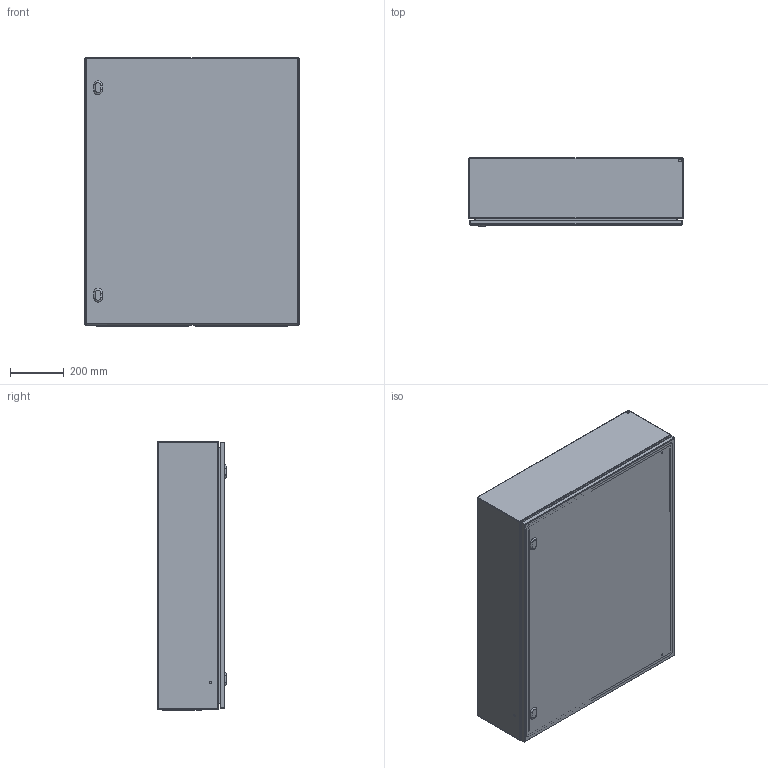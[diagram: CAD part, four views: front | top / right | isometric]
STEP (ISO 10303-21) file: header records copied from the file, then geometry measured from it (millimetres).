
FILE_DESCRIPTION(/* description */ ('STEP AP214'),/* implementation_level */ '2;1');
FILE_NAME(/* name */ 'EC081025-LOD400',/* time_stamp */ '2025-08-01T13:39:25+02:00',/* author */ ('License CC BY-ND 4.0'),/* organization */ ('CADENAS'),/* preprocessor_version */ 'ST-DEVELOPER v19.3',/* originating_system */ 'PARTsolutions',/* authorisation */ ' ');
FILE_SCHEMA (('AUTOMOTIVE_DESIGN {1 0 10303 214 3 1 1}'));
Length unit declared in the file: millimetre
Products named in the file (5): EC081025-LOD400; EC081025-LOD400_cabinet; EC081025-LOD400_door; EC081025-LOD400_bottom_plate; EC081025-LOD400_inner_plate
Assembly tree (5 placements, depth 2):
  EC081025-LOD400
    EC081025-LOD400_cabinet
    EC081025-LOD400_door
    EC081025-LOD400_bottom_plate  x2
    EC081025-LOD400_inner_plate
Bounding box: 800 x 255 x 1004 mm (x, y, z)
Volume: 6212747.5 mm3; surface area: 6878936 mm2
Topology: 5 solids, 5 shells, 794 faces, 1888 edges, 1230 vertices
Faces by surface type: cylinder 340, plane 296, torus 80, cone 78
Full cylindrical faces by diameter (mm): 1 x96, 4.5 x86, 5 x4, 5.5 x4, 6 x4, 7 x4, 8 x12, 10 x10, 14 x4
Entity records: 16899 total; most frequent: DIRECTION 3084, CARTESIAN_POINT 2712, ORIENTED_EDGE 2396, AXIS2_PLACEMENT_3D 1282, EDGE_CURVE 1198, EDGE_LOOP 1136, FACE_BOUND 1136, VERTEX_POINT 910
